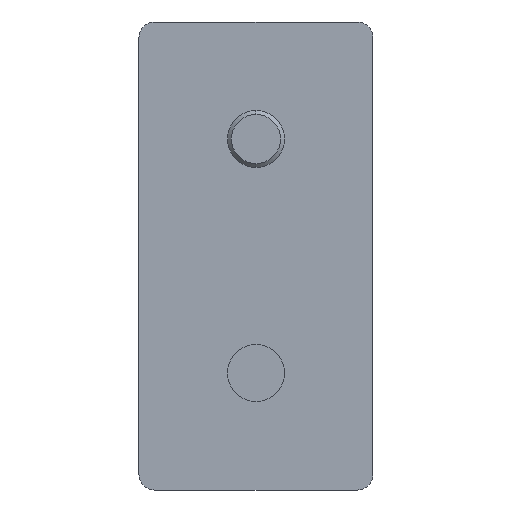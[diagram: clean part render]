
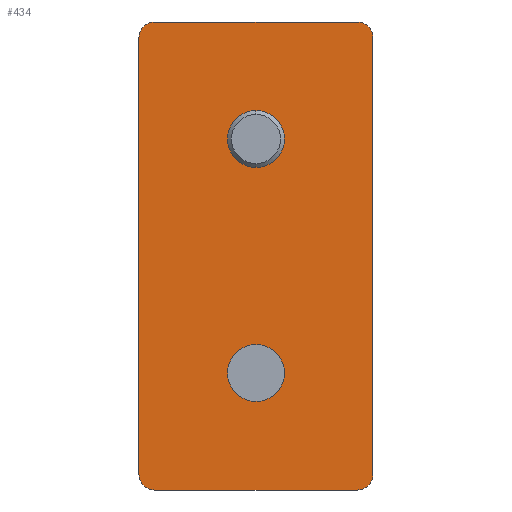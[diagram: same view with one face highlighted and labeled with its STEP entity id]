
A CAD part, front view. The second image highlights one B-rep face of the part: STEP entity #434.
In plain terms, the highlighted planar face has unit normal (0, -1, 0).
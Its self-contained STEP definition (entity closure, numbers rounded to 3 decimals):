
#1 = CARTESIAN_POINT ( 'NONE',  ( 0., 0., 30. ) ) ;
#33 = EDGE_CURVE ( 'NONE', #627, #498, #436, .T. ) ;
#63 = CARTESIAN_POINT ( 'NONE',  ( 0., 0., 15. ) ) ;
#64 = CIRCLE ( 'NONE', #429, 3.65 ) ;
#66 = ORIENTED_EDGE ( 'NONE', *, *, #577, .F. ) ;
#82 = FACE_BOUND ( 'NONE', #682, .T. ) ;
#93 = AXIS2_PLACEMENT_3D ( 'NONE', #300, #693, #120 ) ;
#94 = CIRCLE ( 'NONE', #629, 3.65 ) ;
#117 = FACE_OUTER_BOUND ( 'NONE', #744, .T. ) ;
#120 = DIRECTION ( 'NONE',  ( 0., 0., 1. ) ) ;
#145 = EDGE_CURVE ( 'NONE', #222, #314, #259, .T. ) ;
#147 = DIRECTION ( 'NONE',  ( 1., 0., 0. ) ) ;
#155 = VERTEX_POINT ( 'NONE', #621 ) ;
#163 = CARTESIAN_POINT ( 'NONE',  ( -15., 0., 0. ) ) ;
#165 = VERTEX_POINT ( 'NONE', #679 ) ;
#186 = DIRECTION ( 'NONE',  ( 0., 0., 1. ) ) ;
#188 = EDGE_CURVE ( 'NONE', #498, #286, #311, .T. ) ;
#191 = VECTOR ( 'NONE', #734, 1000. ) ;
#198 = ORIENTED_EDGE ( 'NONE', *, *, #724, .T. ) ;
#205 = DIRECTION ( 'NONE',  ( 0., 0., 1. ) ) ;
#206 = ORIENTED_EDGE ( 'NONE', *, *, #444, .F. ) ;
#212 = AXIS2_PLACEMENT_3D ( 'NONE', #396, #273, #488 ) ;
#213 = DIRECTION ( 'NONE',  ( 0., 0., 1. ) ) ;
#214 = CARTESIAN_POINT ( 'NONE',  ( -13., 0., 28. ) ) ;
#222 = VERTEX_POINT ( 'NONE', #512 ) ;
#231 = ORIENTED_EDGE ( 'NONE', *, *, #145, .T. ) ;
#239 = CIRCLE ( 'NONE', #655, 2. ) ;
#244 = DIRECTION ( 'NONE',  ( 1., 0., 0. ) ) ;
#257 = CARTESIAN_POINT ( 'NONE',  ( 15., 0., 28. ) ) ;
#259 = LINE ( 'NONE', #546, #541 ) ;
#267 = CARTESIAN_POINT ( 'NONE',  ( 0., 0., 15. ) ) ;
#269 = EDGE_CURVE ( 'NONE', #314, #743, #239, .T. ) ;
#272 = ORIENTED_EDGE ( 'NONE', *, *, #337, .F. ) ;
#273 = DIRECTION ( 'NONE',  ( 0., -1., 0. ) ) ;
#286 = VERTEX_POINT ( 'NONE', #458 ) ;
#300 = CARTESIAN_POINT ( 'NONE',  ( 13., 0., 28. ) ) ;
#306 = CARTESIAN_POINT ( 'NONE',  ( 0., 0., 18.65 ) ) ;
#311 = LINE ( 'NONE', #163, #191 ) ;
#313 = ORIENTED_EDGE ( 'NONE', *, *, #552, .T. ) ;
#314 = VERTEX_POINT ( 'NONE', #640 ) ;
#324 = DIRECTION ( 'NONE',  ( 0., 0., 1. ) ) ;
#325 = CIRCLE ( 'NONE', #369, 3.65 ) ;
#326 = DIRECTION ( 'NONE',  ( 0., -1., 0. ) ) ;
#335 = DIRECTION ( 'NONE',  ( 0., -1., 0. ) ) ;
#337 = EDGE_CURVE ( 'NONE', #653, #743, #651, .T. ) ;
#341 = VERTEX_POINT ( 'NONE', #469 ) ;
#359 = DIRECTION ( 'NONE',  ( 0., 1., 0. ) ) ;
#362 = EDGE_CURVE ( 'NONE', #653, #407, #448, .T. ) ;
#369 = AXIS2_PLACEMENT_3D ( 'NONE', #603, #326, #324 ) ;
#377 = VECTOR ( 'NONE', #585, 1000. ) ;
#387 = CARTESIAN_POINT ( 'NONE',  ( 0., 0., -15. ) ) ;
#396 = CARTESIAN_POINT ( 'NONE',  ( -13., 0., -28. ) ) ;
#398 = DIRECTION ( 'NONE',  ( 0., -1., 0. ) ) ;
#407 = VERTEX_POINT ( 'NONE', #631 ) ;
#413 = VECTOR ( 'NONE', #244, 1000. ) ;
#429 = AXIS2_PLACEMENT_3D ( 'NONE', #63, #641, #531 ) ;
#433 = DIRECTION ( 'NONE',  ( 0., 1., 0. ) ) ;
#434 = ADVANCED_FACE ( 'NONE', ( #82, #718, #117 ), #746, .F. ) ;
#436 = CIRCLE ( 'NONE', #708, 2. ) ;
#444 = EDGE_CURVE ( 'NONE', #627, #407, #533, .T. ) ;
#448 = CIRCLE ( 'NONE', #93, 2. ) ;
#458 = CARTESIAN_POINT ( 'NONE',  ( -15., 0., -28. ) ) ;
#462 = EDGE_CURVE ( 'NONE', #341, #545, #64, .T. ) ;
#468 = ORIENTED_EDGE ( 'NONE', *, *, #188, .T. ) ;
#469 = CARTESIAN_POINT ( 'NONE',  ( 0., 0., 11.35 ) ) ;
#474 = ORIENTED_EDGE ( 'NONE', *, *, #362, .T. ) ;
#488 = DIRECTION ( 'NONE',  ( 0., 0., 1. ) ) ;
#498 = VERTEX_POINT ( 'NONE', #530 ) ;
#512 = CARTESIAN_POINT ( 'NONE',  ( -13., 0., -30. ) ) ;
#530 = CARTESIAN_POINT ( 'NONE',  ( -15., 0., 28. ) ) ;
#531 = DIRECTION ( 'NONE',  ( 0., 0., 1. ) ) ;
#533 = LINE ( 'NONE', #1, #413 ) ;
#541 = VECTOR ( 'NONE', #147, 1000. ) ;
#545 = VERTEX_POINT ( 'NONE', #306 ) ;
#546 = CARTESIAN_POINT ( 'NONE',  ( 0., 0., -30. ) ) ;
#552 = EDGE_CURVE ( 'NONE', #545, #341, #667, .T. ) ;
#564 = CARTESIAN_POINT ( 'NONE',  ( 15., 0., -28. ) ) ;
#574 = ORIENTED_EDGE ( 'NONE', *, *, #462, .T. ) ;
#577 = EDGE_CURVE ( 'NONE', #165, #155, #325, .T. ) ;
#581 = CARTESIAN_POINT ( 'NONE',  ( 0., 0., 0. ) ) ;
#582 = AXIS2_PLACEMENT_3D ( 'NONE', #267, #433, #656 ) ;
#585 = DIRECTION ( 'NONE',  ( 0., 0., -1. ) ) ;
#603 = CARTESIAN_POINT ( 'NONE',  ( 0., 0., -15. ) ) ;
#606 = AXIS2_PLACEMENT_3D ( 'NONE', #581, #359, #186 ) ;
#607 = ORIENTED_EDGE ( 'NONE', *, *, #675, .F. ) ;
#611 = DIRECTION ( 'NONE',  ( 0., 0., 1. ) ) ;
#618 = CIRCLE ( 'NONE', #212, 2. ) ;
#621 = CARTESIAN_POINT ( 'NONE',  ( 0., 0., -11.35 ) ) ;
#622 = DIRECTION ( 'NONE',  ( 0., -1., 0. ) ) ;
#627 = VERTEX_POINT ( 'NONE', #709 ) ;
#629 = AXIS2_PLACEMENT_3D ( 'NONE', #387, #398, #205 ) ;
#631 = CARTESIAN_POINT ( 'NONE',  ( 13., 0., 30. ) ) ;
#640 = CARTESIAN_POINT ( 'NONE',  ( 13., 0., -30. ) ) ;
#641 = DIRECTION ( 'NONE',  ( 0., 1., 0. ) ) ;
#643 = ORIENTED_EDGE ( 'NONE', *, *, #33, .T. ) ;
#651 = LINE ( 'NONE', #687, #377 ) ;
#653 = VERTEX_POINT ( 'NONE', #257 ) ;
#655 = AXIS2_PLACEMENT_3D ( 'NONE', #685, #622, #213 ) ;
#656 = DIRECTION ( 'NONE',  ( 0., 0., 1. ) ) ;
#667 = CIRCLE ( 'NONE', #582, 3.65 ) ;
#675 = EDGE_CURVE ( 'NONE', #155, #165, #94, .T. ) ;
#679 = CARTESIAN_POINT ( 'NONE',  ( 0., 0., -18.65 ) ) ;
#682 = EDGE_LOOP ( 'NONE', ( #607, #66 ) ) ;
#685 = CARTESIAN_POINT ( 'NONE',  ( 13., 0., -28. ) ) ;
#687 = CARTESIAN_POINT ( 'NONE',  ( 15., 0., 0. ) ) ;
#693 = DIRECTION ( 'NONE',  ( 0., -1., 0. ) ) ;
#699 = ORIENTED_EDGE ( 'NONE', *, *, #269, .T. ) ;
#708 = AXIS2_PLACEMENT_3D ( 'NONE', #214, #335, #611 ) ;
#709 = CARTESIAN_POINT ( 'NONE',  ( -13., 0., 30. ) ) ;
#718 = FACE_BOUND ( 'NONE', #720, .T. ) ;
#720 = EDGE_LOOP ( 'NONE', ( #313, #574 ) ) ;
#724 = EDGE_CURVE ( 'NONE', #286, #222, #618, .T. ) ;
#734 = DIRECTION ( 'NONE',  ( 0., 0., -1. ) ) ;
#743 = VERTEX_POINT ( 'NONE', #564 ) ;
#744 = EDGE_LOOP ( 'NONE', ( #206, #643, #468, #198, #231, #699, #272, #474 ) ) ;
#746 = PLANE ( 'NONE',  #606 ) ;
